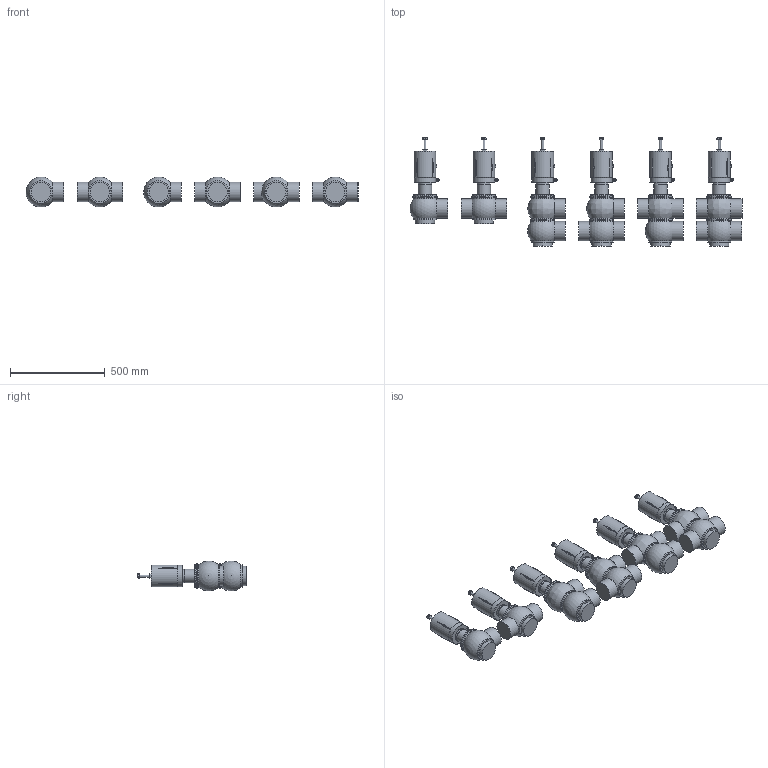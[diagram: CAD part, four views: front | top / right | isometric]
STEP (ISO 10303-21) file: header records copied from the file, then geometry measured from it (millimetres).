
FILE_DESCRIPTION((''),'2;1');
FILE_NAME('\\BV-SRV1\Ufficio tecnico\cad3d\PNEUMATICA\Ing1-1\pne bbzp e derivate\BBZS5\BBZS5-DN100-CIL108-SAL.iam.step','2009-10-19T10:18:15',(''),(''),'Autodesk Inventor 2010','Autodesk Inventor 2010','');
FILE_SCHEMA(('AUTOMOTIVE_DESIGN { 1 0 10303 214 1 1 1 1 }'));
Length unit declared in the file: millimetre
Products named in the file (7): BBZS5-DN100-CIL108-SAL; cil 108 tarabile; Assemblaggio-DN0100; COR-INF-L-SAL-DN100; COR-INF-T-SAL-DN100; COR-SUP-L-SAL-DN100; COR-SUP-T-SAL-DN100
Assembly tree (22 placements, depth 2):
  BBZS5-DN100-CIL108-SAL
    cil 108 tarabile  x6
    Assemblaggio-DN0100  x6
    COR-INF-L-SAL-DN100  x3
    COR-INF-T-SAL-DN100  x3
    COR-SUP-L-SAL-DN100  x2
    COR-SUP-T-SAL-DN100  x2
Bounding box: 1749 x 569.2 x 157.94 mm (x, y, z)
Volume: 39196717.8 mm3; surface area: 1945209.8 mm2
Topology: 28 solids, 28 shells, 1285 faces, 3042 edges, 1816 vertices
Faces by surface type: plane 488, cylinder 287, cone 260, bspline 124, sphere 78, torus 48
Full cylindrical faces by diameter (mm): 0 x4, 4.9 x6, 6 x12, 7 x6, 8.3 x6, 10 x6, 11 x6, 11.5 x6, 14 x6, 19.37 x6, 69 x6, 71 x6, 101.6 x21, 113.5 x6, 114.5 x6, 121 x26, 129 x20
Entity records: 7711 total; most frequent: CARTESIAN_POINT 2296, DIRECTION 1066, ORIENTED_EDGE 914, EDGE_CURVE 457, AXIS2_PLACEMENT_3D 455, EDGE_LOOP 363, VERTEX_POINT 318, FACE_OUTER_BOUND 248
